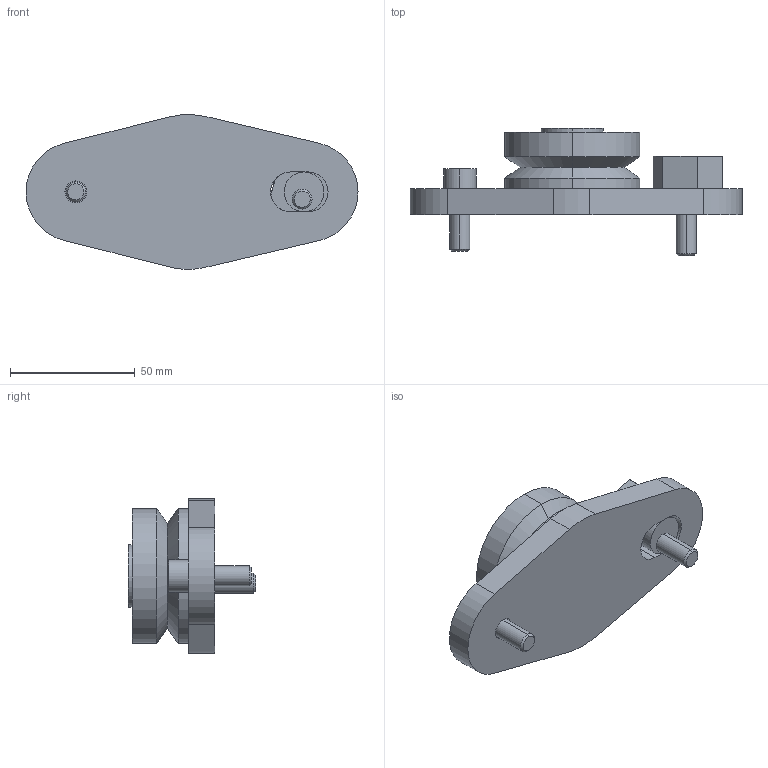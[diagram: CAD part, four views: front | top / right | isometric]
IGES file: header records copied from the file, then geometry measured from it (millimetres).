
Start section: 3D InterOp IGES (Version 21 0 1), Spatial Corp. Copyright (c) 1999-2007.
Global section: file name: RBHJ54E.igs; native system: Spatial Corp.; preprocessor: 3D InterOp GENERIC/IGES 3.0; author: Noname; organization: Noname; date: 20220627.165031; units: millimetre
Bounding box: 133 x 51.1 x 61.92 mm (x, y, z)
Surface area: 24571.1 mm2 (no closed solid volume)
Topology: 0 solids, 0 shells, 78 faces, 370 edges, 370 vertices
Faces by surface type: extrusion 45, revolution 33
